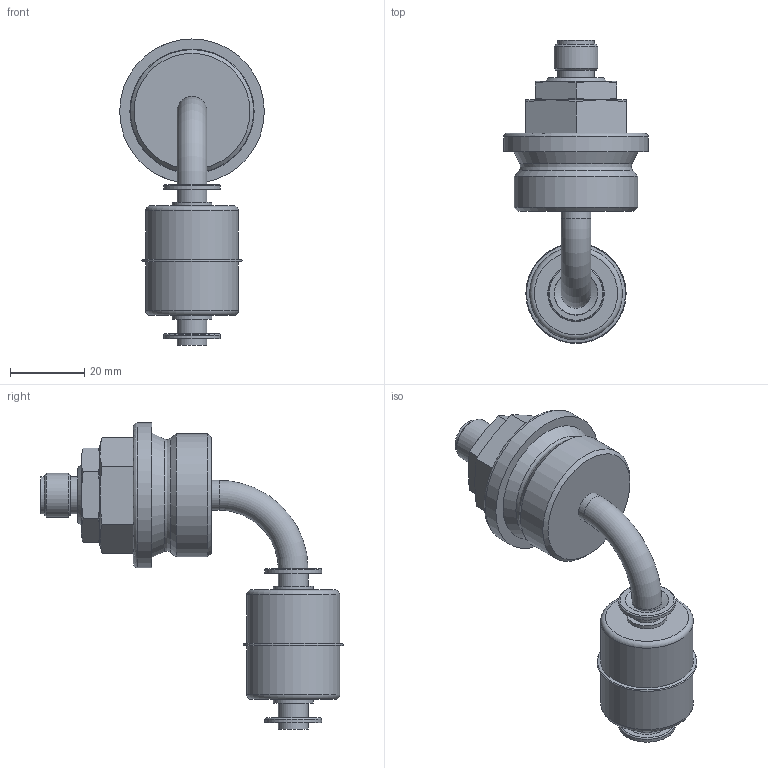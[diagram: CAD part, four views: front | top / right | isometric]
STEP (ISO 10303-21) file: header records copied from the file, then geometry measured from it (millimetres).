
FILE_DESCRIPTION(/* description */ ('Katalogmodell Elobau'),/* implementation_level */ '2;1');
FILE_NAME(/* name */ '27481101_C.stp',/* time_stamp */ '2014-09-30T14:55:56+02:00',/* author */ ('Elobau GmbH & Co. KG'),/* organization */ ('Elobau GmbH & Co. KG'),/* preprocessor_version */ 'ST-DEVELOPER v15',/* originating_system */ 'SIEMENS PLM Software NX 8.5',/* authorisation */ '');
FILE_SCHEMA (('AUTOMOTIVE_DESIGN { 1 0 10303 214 3 1 1 1 }'));
Length unit declared in the file: millimetre
Products named in the file (1): 27481101_C
Bounding box: 39 x 81.58 x 82.5 mm (x, y, z)
Volume: 44734.8 mm3; surface area: 11746.9 mm2
Topology: 1 solids, 1 shells, 101 faces, 199 edges, 123 vertices
Faces by surface type: plane 37, cone 30, cylinder 24, torus 8, bspline 2
Full cylindrical faces by diameter (mm): 1 x4, 8 x5, 10 x2, 10.7 x2, 11.794 x1, 14.75 x2, 15.25 x2, 25 x2, 33.249 x1, 39 x1
Entity records: 2548 total; most frequent: CARTESIAN_POINT 516, DIRECTION 390, ORIENTED_EDGE 286, AXIS2_PLACEMENT_3D 187, EDGE_LOOP 168, EDGE_CURVE 143, FACE_BOUND 131, VERTEX_POINT 111
